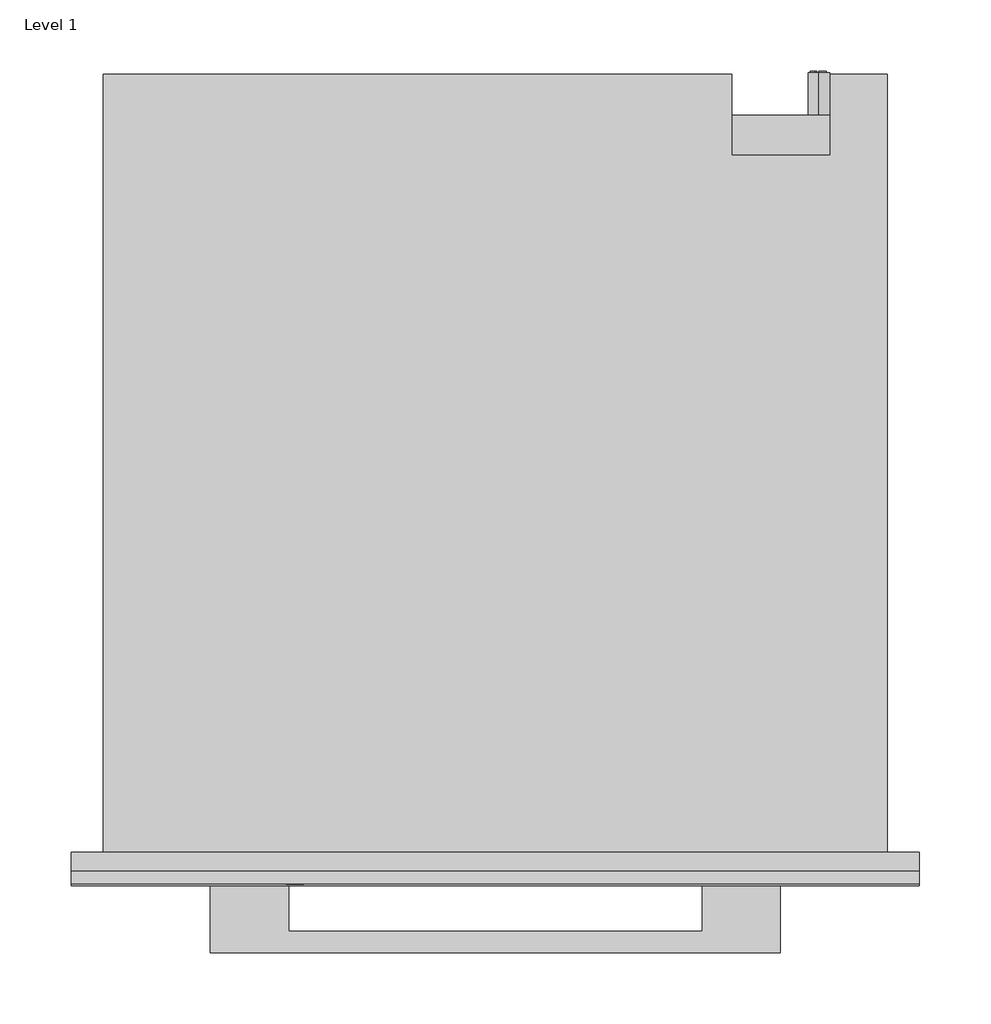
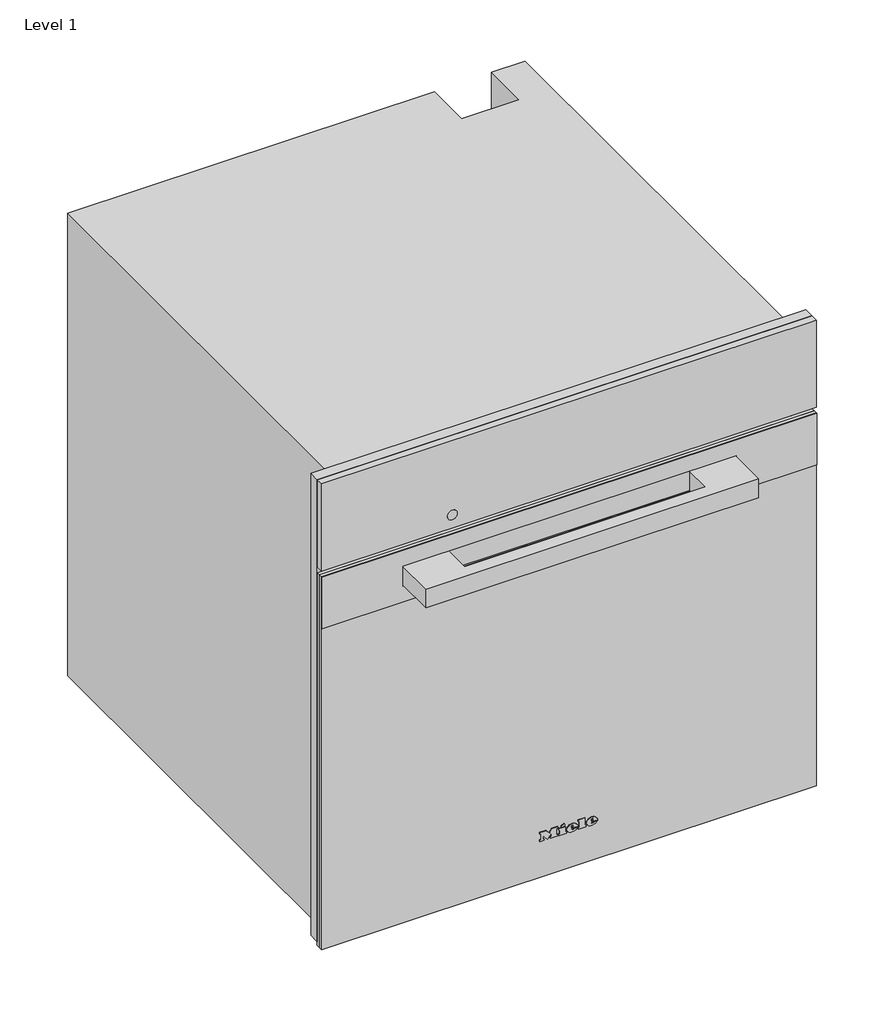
# One storey: 1 proxy.
"""IFC4 building model written with IfcOpenShell, lengths in millimetres."""

from ifc_helpers import new_model, si_unit, origin, place, context, project, spatial, transform, mapped, element, save
from components import specialty_equipment_7ab78854

model = new_model("IFC4")

# Units and contexts
model_context = context("Model", 3, world=origin())
ifc_project = project(units=[si_unit("LENGTHUNIT", "METRE", prefix="MILLI")], contexts=[model_context])

# Site, building, storey
site = spatial("IfcSite", under=ifc_project)
building = spatial("IfcBuilding", under=site)
storey = spatial("IfcBuildingStorey", under=building, Name="Level 1", Elevation=0.0)

# Proxy
placement = place(None, origin())
specialty_equipment_shape = specialty_equipment_7ab78854(model_context)
element("IfcBuildingElementProxy", 1, Name="11154360_SER_DGC7660_EDST-CLST : 23766043_SER_11154360_DGC7660_EDST-CLST", ObjectType="11154360_SER_DGC7660_EDST-CLST : 23766043_SER_11154360_DGC7660_EDST-CLST", at=placement, inside=storey, context=model_context, shape_type="MappedRepresentation", body=[
    mapped(specialty_equipment_shape, transform((0.0, 0.0, 0.0), x_axis=(1.0, 0.0, 0.0), y_axis=(0.0, 1.0, 0.0), z_axis=(0.0, 0.0, 1.0))),
])

save(model, "model.ifc")
